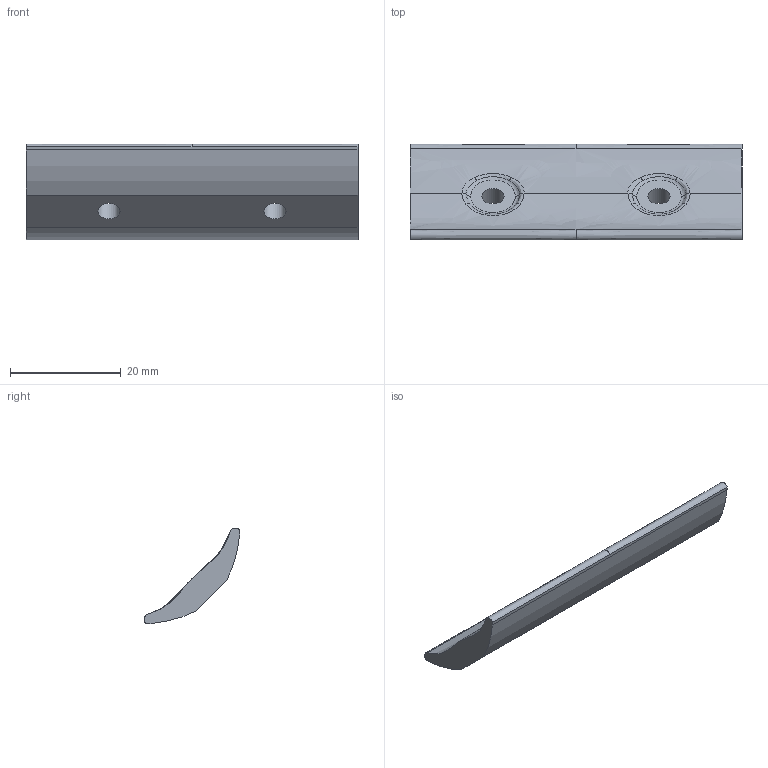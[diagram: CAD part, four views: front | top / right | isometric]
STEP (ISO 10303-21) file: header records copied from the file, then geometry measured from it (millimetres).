
FILE_DESCRIPTION(/* description */ (''),/* implementation_level */ '2;1');
FILE_NAME(/* name */ 'FRAME BRACKET.step',/* time_stamp */ '2024-02-28T16:40:07Z',/* author */ (''),/* organization */ (''),/* preprocessor_version */ 'ST-DEVELOPER v20',/* originating_system */ 'Autodesk Translation Framework v12.20.1.177',/* authorisation */ '');
FILE_SCHEMA (('AUTOMOTIVE_DESIGN { 1 0 10303 214 3 1 1 }'));
Length unit declared in the file: millimetre
Products named in the file (1): FRAME BRACKET (1)
Bounding box: 60 x 17.34 x 17.33 mm (x, y, z)
Volume: 4739.6 mm3; surface area: 3370.7 mm2
Topology: 1 solids, 1 shells, 33 faces, 85 edges, 54 vertices
Faces by surface type: bspline 24, plane 7, cylinder 2
Full cylindrical faces by diameter (mm): 4 x2
Entity records: 2137 total; most frequent: CARTESIAN_POINT 1475, ORIENTED_EDGE 170, EDGE_CURVE 85, B_SPLINE_CURVE_WITH_KNOTS 62, VERTEX_POINT 54, DIRECTION 51, EDGE_LOOP 37, FACE_OUTER_BOUND 33
